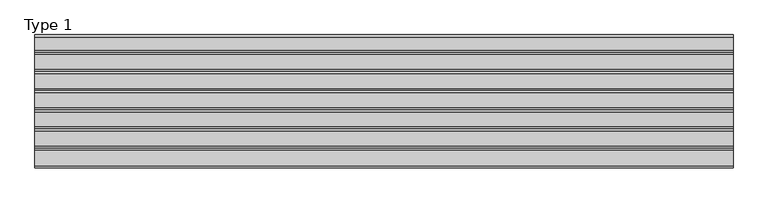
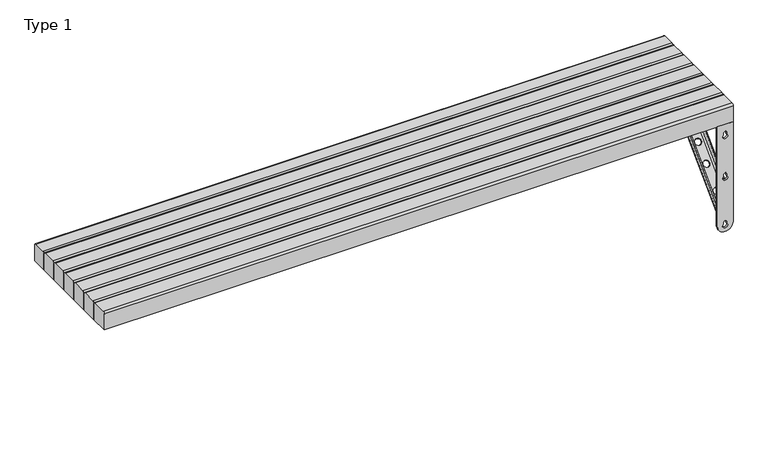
"""IFC4 building model written with IfcOpenShell, lengths in millimetres: furniture geometry, Roros Produkter - Nobel - Bench - Wall - 32650 : Type 1."""

from ifc_helpers import new_model, si_unit, point, frame, frame_2d, origin, place, context, project, spatial, polyline, circle_curve, ellipse_curve, trimmed, segment, composite_curve, outline, extrude, source, transform, mapped, element, save
from ifc_brep_helpers import plane_surface, cylinder_surface, revolved_surface, advanced_brep


def type_1_ca73483d(model_context):
    return source(origin(), model_context, "Body", "SolidModel", [
        advanced_brep(
        [(1117.9999922, 372.3279231, 368.5858677), (1081.9999922, 372.3279231, 368.5858677), (1077.1011148, 370.9137803, 370.0000106), (1122.8988696, 370.9137803, 370.0000106), (1117.9999922, 83.8283564, 84.3289417), (1081.9999922, 83.8283564, 84.3289417), (1077.9999922, 80.9999293, 87.1573688), (1074.9999922, 81.0, 87.1572981), (1081.9999922, 85.9496768, 82.2076214), (1117.9999922, 85.9496768, 82.2076214), (1124.9999922, 80.9999293, 87.1573688), (1121.9999922, 81.0, 87.1572981), (1121.9999922, 363.8425711, 370.0000106), (1117.9999922, 369.4994253, 370.0000106), (1121.9999922, 81.0, 112.6132837), (1121.9999922, 338.3867269, 370.0000106), (1124.9999922, 81.0, 112.6132837), (1124.9999922, 338.3867269, 370.0000106), (1124.9999922, 363.8425711, 370.0000106), (1090.0951875, 329.9749906, 326.2329352), (1110.0951875, 329.9749906, 326.2329352), (1090.0951875, 273.3273962, 269.5853408), (1110.0951875, 273.3273962, 269.5853408), (1090.0951875, 227.3654554, 223.6234), (1110.0951875, 227.3654554, 223.6234), (1090.0951875, 181.3935431, 177.6514877), (1110.0951875, 181.3935431, 177.6514877), (1090.0951875, 124.8524127, 121.1103573), (1110.0951875, 124.8524127, 121.1103573), (1074.9999922, 363.8425711, 370.0000106), (1074.9999922, 81.0, 112.6132837), (1074.9999922, 338.3867269, 370.0000106), (1077.9999922, 81.0, 112.6132837), (1077.9999922, 338.3867269, 370.0000106), (1077.9999922, 363.8425711, 370.0000106), (1081.9999922, 369.4994253, 370.0000106), (1110.0951875, 327.8536702, 328.3542555), (1090.0951875, 327.8536702, 328.3542555), (1110.0951875, 271.2060759, 271.7066611), (1090.0951875, 271.2060759, 271.7066611), (1110.0951875, 225.2441351, 225.7447204), (1090.0951875, 225.2441351, 225.7447204), (1110.0951875, 179.2722228, 179.772808), (1090.0951875, 179.2722228, 179.772808), (1110.0951875, 122.7310923, 123.2316776), (1090.0951875, 122.7310923, 123.2316776)],
        [
            (0, 1),
            (1, 2, circle_curve(frame((1081.9999922, 367.3781757, 373.5356152), z_axis=(0.0, 0.707106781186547, 0.7071067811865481), x_axis=(0.0, -0.7071067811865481, 0.707106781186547)), 7.0)),
            (2, 3),
            (3, 0, circle_curve(frame((1117.9999922, 367.3781757, 373.5356152), z_axis=(0.0, 0.707106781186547, 0.7071067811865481), x_axis=(0.0, -0.7071067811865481, 0.707106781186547)), 7.0)),
            (4, 5),
            (5, 6, circle_curve(frame((1081.9999922, 80.9999293, 87.1573688), z_axis=(0.0, 0.707106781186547, 0.7071067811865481), x_axis=(0.0, -0.7071067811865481, 0.707106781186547)), 4.0)),
            (6, 7),
            (7, 8, circle_curve(frame((1081.9999922, 80.9999293, 87.1573688), z_axis=(0.0, -0.707106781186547, -0.7071067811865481), x_axis=(0.0, -0.7071067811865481, 0.707106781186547)), 7.0)),
            (8, 9),
            (9, 10, circle_curve(frame((1117.9999922, 80.9999293, 87.1573688), z_axis=(0.0, -0.707106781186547, -0.7071067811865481), x_axis=(0.0, -0.7071067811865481, 0.707106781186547)), 7.0)),
            (10, 11),
            (11, 4, circle_curve(frame((1117.9999922, 80.9999293, 87.1573688), z_axis=(0.0, 0.707106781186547, 0.7071067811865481), x_axis=(0.0, -0.7071067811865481, 0.707106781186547)), 4.0)),
            (11, 12),
            (12, 13, ellipse_curve(frame((1117.9999922, 363.8425711, 370.0000106), z_axis=(0.0, 0.0, 1.0), x_axis=(0.0, -1.0, 0.0)), 5.6568542, 4.0)),
            (13, 4),
            (11, 14),
            (14, 15),
            (15, 12),
            (14, 16),
            (16, 17),
            (17, 15),
            (16, 10),
            (10, 18),
            (18, 17),
            (0, 9),
            (8, 1),
            (19, 20, circle_curve(frame((1100.0951875, 329.9749906, 326.2329352), z_axis=(0.0, -0.7071067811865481, 0.7071067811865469), x_axis=(-1.0, 0.0, 0.0)), 10.0)),
            (20, 19, circle_curve(frame((1100.0951875, 329.9749906, 326.2329352), z_axis=(0.0, -0.7071067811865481, 0.7071067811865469), x_axis=(-1.0, 0.0, 0.0)), 10.0)),
            (21, 22, circle_curve(frame((1100.0951875, 273.3273962, 269.5853408), z_axis=(0.0, -0.7071067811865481, 0.7071067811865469), x_axis=(-1.0, 0.0, 0.0)), 10.0)),
            (22, 21, circle_curve(frame((1100.0951875, 273.3273962, 269.5853408), z_axis=(0.0, -0.7071067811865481, 0.7071067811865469), x_axis=(-1.0, 0.0, 0.0)), 10.0)),
            (23, 24, circle_curve(frame((1100.0951875, 227.3654554, 223.6234), z_axis=(0.0, -0.7071067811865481, 0.7071067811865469), x_axis=(-1.0, 0.0, 0.0)), 10.0)),
            (24, 23, circle_curve(frame((1100.0951875, 227.3654554, 223.6234), z_axis=(0.0, -0.7071067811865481, 0.7071067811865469), x_axis=(-1.0, 0.0, 0.0)), 10.0)),
            (25, 26, circle_curve(frame((1100.0951875, 181.3935431, 177.6514877), z_axis=(0.0, -0.7071067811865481, 0.7071067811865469), x_axis=(-1.0, 0.0, 0.0)), 10.0)),
            (26, 25, circle_curve(frame((1100.0951875, 181.3935431, 177.6514877), z_axis=(0.0, -0.7071067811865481, 0.7071067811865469), x_axis=(-1.0, 0.0, 0.0)), 10.0)),
            (27, 28, circle_curve(frame((1100.0951875, 124.8524127, 121.1103573), z_axis=(0.0, -0.7071067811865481, 0.7071067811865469), x_axis=(-1.0, 0.0, 0.0)), 10.0)),
            (28, 27, circle_curve(frame((1100.0951875, 124.8524127, 121.1103573), z_axis=(0.0, -0.7071067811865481, 0.7071067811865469), x_axis=(-1.0, 0.0, 0.0)), 10.0)),
            (7, 29),
            (29, 2, ellipse_curve(frame((1081.9999922, 363.8425711, 370.0000106), z_axis=(0.0, 0.0, -1.0), x_axis=(0.0, 1.0, 0.0)), 9.8994949, 7.0)),
            (7, 30),
            (30, 31),
            (31, 29),
            (30, 32),
            (32, 33),
            (33, 31),
            (32, 6),
            (6, 34),
            (34, 33),
            (5, 35),
            (35, 34, ellipse_curve(frame((1081.9999922, 363.8425711, 370.0000106), z_axis=(0.0, 0.0, 1.0), x_axis=(0.0, -1.0, 0.0)), 5.6568542, 4.0)),
            (13, 35),
            (36, 37, circle_curve(frame((1100.0951875, 327.8536702, 328.3542555), z_axis=(0.0, 0.7071067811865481, -0.7071067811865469), x_axis=(-1.0, 0.0, 0.0)), 10.0)),
            (37, 36, circle_curve(frame((1100.0951875, 327.8536702, 328.3542555), z_axis=(0.0, 0.7071067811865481, -0.7071067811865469), x_axis=(-1.0, 0.0, 0.0)), 10.0)),
            (38, 39, circle_curve(frame((1100.0951875, 271.2060759, 271.7066611), z_axis=(0.0, 0.7071067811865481, -0.7071067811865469), x_axis=(-1.0, 0.0, 0.0)), 10.0)),
            (39, 38, circle_curve(frame((1100.0951875, 271.2060759, 271.7066611), z_axis=(0.0, 0.7071067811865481, -0.7071067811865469), x_axis=(-1.0, 0.0, 0.0)), 10.0)),
            (40, 41, circle_curve(frame((1100.0951875, 225.2441351, 225.7447204), z_axis=(0.0, 0.7071067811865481, -0.7071067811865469), x_axis=(-1.0, 0.0, 0.0)), 10.0)),
            (41, 40, circle_curve(frame((1100.0951875, 225.2441351, 225.7447204), z_axis=(0.0, 0.7071067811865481, -0.7071067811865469), x_axis=(-1.0, 0.0, 0.0)), 10.0)),
            (42, 43, circle_curve(frame((1100.0951875, 179.2722228, 179.772808), z_axis=(0.0, 0.7071067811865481, -0.7071067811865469), x_axis=(-1.0, 0.0, 0.0)), 10.0)),
            (43, 42, circle_curve(frame((1100.0951875, 179.2722228, 179.772808), z_axis=(0.0, 0.7071067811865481, -0.7071067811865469), x_axis=(-1.0, 0.0, 0.0)), 10.0)),
            (44, 45, circle_curve(frame((1100.0951875, 122.7310923, 123.2316776), z_axis=(0.0, 0.7071067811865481, -0.7071067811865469), x_axis=(-1.0, 0.0, 0.0)), 10.0)),
            (45, 44, circle_curve(frame((1100.0951875, 122.7310923, 123.2316776), z_axis=(0.0, 0.7071067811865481, -0.7071067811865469), x_axis=(-1.0, 0.0, 0.0)), 10.0)),
            (3, 18, ellipse_curve(frame((1117.9999922, 363.8425711, 370.0000106), z_axis=(0.0, 0.0, -1.0), x_axis=(0.0, 1.0, 0.0)), 9.8994949, 7.0)),
            (36, 20),
            (19, 37),
            (38, 22),
            (21, 39),
            (40, 24),
            (23, 41),
            (42, 26),
            (25, 43),
            (44, 28),
            (27, 45),
        ],
        [
            plane_surface(frame((1117.9999922, 364.5497485, 376.3640423), z_axis=(0.0, 0.7071067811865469, 0.7071067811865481), x_axis=(-1.0, 0.0, 0.0))),
            plane_surface(frame((1117.9999922, 78.1715022, 89.9857959), z_axis=(0.0, -0.7071067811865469, -0.7071067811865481), x_axis=(1.0, 0.0, 0.0))),
            revolved_surface(polyline([(1117.9999922, 78.1715021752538, 89.98579592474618), (1117.9999922, 363.84257107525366, 375.6568648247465)]), (1117.9999922, 80.9999293, 87.1573688), (0.0, -0.707106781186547, -0.7071067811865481)),
            plane_surface(frame((1121.9999922, 367.3781757, 373.5356152), z_axis=(-1.0, 0.0, 0.0), x_axis=(0.0, -0.707106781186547, -0.707106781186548))),
            plane_surface(frame((1121.9999922, 354.6502536, 386.2635373), z_axis=(0.0, -0.707106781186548, 0.707106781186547), x_axis=(0.0, -0.707106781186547, -0.707106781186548))),
            plane_surface(frame((1124.9999922, 354.6502536, 386.2635373), z_axis=(1.0, 0.0, 0.0), x_axis=(0.0, -0.707106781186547, -0.707106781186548))),
            plane_surface(frame((1117.9999922, 372.3279231, 368.5858677), z_axis=(0.0, 0.7071067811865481, -0.7071067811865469), x_axis=(0.0, -0.7071067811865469, -0.7071067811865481))),
            cylinder_surface(frame((1081.9999922, 80.9999293, 87.1573688), z_axis=(0.0, 0.707106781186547, 0.7071067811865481), x_axis=(0.0, -0.7071067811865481, 0.707106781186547)), 7.0),
            plane_surface(frame((1074.9999922, 367.3781757, 373.5356152), z_axis=(-1.0, 0.0, 0.0), x_axis=(0.0, -0.7071067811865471, -0.707106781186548))),
            plane_surface(frame((1074.9999922, 354.6502536, 386.2635373), z_axis=(0.0, -0.7071067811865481, 0.707106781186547), x_axis=(0.0, -0.707106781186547, -0.7071067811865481))),
            plane_surface(frame((1077.9999922, 354.6502536, 386.2635373), z_axis=(1.0000000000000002, 0.0, 0.0), x_axis=(0.0, -0.707106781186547, -0.7071067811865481))),
            revolved_surface(polyline([(1081.9999922, 78.1715021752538, 89.98579592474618), (1081.9999922, 363.84257107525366, 375.6568648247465)]), (1081.9999922, 80.9999293, 87.1573688), (0.0, -0.707106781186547, -0.7071067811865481)),
            plane_surface(frame((1081.9999922, 370.2066028, 370.7071881), z_axis=(0.0, -0.7071067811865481, 0.7071067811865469), x_axis=(0.0, -0.7071067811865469, -0.7071067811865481))),
            cylinder_surface(frame((1117.9999922, 80.9999293, 87.1573688), z_axis=(0.0, 0.707106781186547, 0.7071067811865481), x_axis=(0.0, -0.7071067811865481, 0.707106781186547)), 7.0),
            revolved_surface(polyline([(1090.0951875, 329.9749906, 326.2329352), (1090.0951875, 327.85367025, 328.35425555)]), (1100.0951875, 317.3539543, 338.8539715), (0.0, 0.7071067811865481, -0.7071067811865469)),
            revolved_surface(polyline([(1090.0951875, 273.3273962, 269.5853408), (1090.0951875, 271.2060759, 271.7066611)]), (1100.0951875, 273.3273962, 269.5853408), (0.0, 0.7071067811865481, -0.7071067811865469)),
            revolved_surface(polyline([(1090.0951875, 227.3654554, 223.6234), (1090.0951875, 225.24413504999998, 225.74472035)]), (1100.0951875, 227.3654554, 223.6234), (0.0, 0.7071067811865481, -0.7071067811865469)),
            revolved_surface(polyline([(1090.0951875, 181.3935431, 177.6514877), (1090.0951875, 179.27222279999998, 179.77280799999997)]), (1100.0951875, 181.3935431, 177.6514877), (0.0, 0.7071067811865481, -0.7071067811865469)),
            revolved_surface(polyline([(1090.0951875, 124.8524127, 121.1103573), (1090.0951875, 122.73109235, 123.23167765)]), (1100.0951875, 124.8524127, 121.1103573), (0.0, 0.7071067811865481, -0.7071067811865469)),
            plane_surface(frame((-946.6643977, 81.0, 130.0000106), z_axis=(0.0, -1.0, 0.0), x_axis=(1.0, 0.0, 0.0))),
            plane_surface(frame((-946.6643977, 376.8148919, 370.0000106), z_axis=(0.0, 0.0, 1.0), x_axis=(1.0, 0.0, 0.0))),
        ],
        [
            (0, [[1, 2, 3, 4]]),
            (1, [[5, 6, 7, 8, 9, 10, 11, 12]]),
            (2, [[-12, 13, 14, 15]]),
            (3, [[-13, 16, 17, 18]]),
            (4, [[-17, 19, 20, 21]]),
            (5, [[-20, 22, 23, 24]]),
            (6, [[-1, 25, -9, 26], [27, 28], [29, 30], [31, 32], [33, 34], [35, 36]]),
            (7, [[-8, 37, 38, -2, -26]]),
            (8, [[-37, 39, 40, 41]]),
            (9, [[-40, 42, 43, 44]]),
            (10, [[-43, 45, 46, 47]]),
            (11, [[-6, 48, 49, -46]]),
            (12, [[-5, -15, 50, -48], [51, 52], [53, 54], [55, 56], [57, 58], [59, 60]]),
            (13, [[-10, -25, -4, 61, -23]]),
            (14, [[62, -27, 63, -51]]),
            (14, [[-62, -52, -63, -28]]),
            (15, [[64, -29, 65, -53]]),
            (15, [[-64, -54, -65, -30]]),
            (16, [[66, -31, 67, -55]]),
            (16, [[-66, -56, -67, -32]]),
            (17, [[68, -33, 69, -57]]),
            (17, [[-68, -58, -69, -34]]),
            (18, [[70, -35, 71, -59]]),
            (18, [[-70, -60, -71, -36]]),
            (19, [[-7, -45, -42, -39]]),
            (19, [[-11, -22, -19, -16]]),
            (20, [[-3, -38, -41, -44, -47, -49, -50, -14, -18, -21, -24, -61]]),
        ],
    ),
        advanced_brep(
        [(1074.9999922, 86.0, 370.0000106), (1074.9999922, 81.0, 365.0000106), (1074.9999922, 81.0, 40.0000183), (1074.9999922, 76.0, 40.0000183), (1074.9999922, 76.0, 375.0000029), (1074.9999922, 430.9999923, 375.0000029), (1074.9999922, 430.9999923, 370.0000106), (1125.0000075, 81.0, 365.0000106), (1125.0000075, 86.0, 370.0000106), (1125.0000075, 430.9999923, 370.0000106), (1125.0000075, 430.9999923, 375.0000029), (1125.0000075, 76.0, 375.0000029), (1125.0000075, 76.0, 40.0000183), (1125.0000075, 81.0, 40.0000183), (1099.9999998, 81.0, 15.0000106), (1095.7499922, 81.0, 47.0000106), (1095.7499922, 81.0, 41.1796141), (1104.2499922, 81.0, 41.1796141), (1104.2499922, 81.0, 47.0000106), (1095.7499922, 81.0, 207.0000106), (1095.7499922, 81.0, 201.1796141), (1104.2499922, 81.0, 201.1796141), (1104.2499922, 81.0, 207.0000106), (1095.7499922, 81.0, 347.0000106), (1095.7499922, 81.0, 341.1796141), (1104.2499922, 81.0, 341.1796141), (1104.2499922, 81.0, 347.0000106), (1099.9999998, 76.0, 15.0000106), (1095.7499922, 76.0, 41.1796141), (1095.7499922, 76.0, 47.0000106), (1104.2499922, 76.0, 47.0000106), (1104.2499922, 76.0, 41.1796141), (1095.7499922, 76.0, 201.1796141), (1095.7499922, 76.0, 207.0000106), (1104.2499922, 76.0, 207.0000106), (1104.2499922, 76.0, 201.1796141), (1095.7499922, 76.0, 341.1796141), (1095.7499922, 76.0, 347.0000106), (1104.2499922, 76.0, 347.0000106), (1104.2499922, 76.0, 341.1796141), (1099.9999998, 456.0, 375.0000029), (1099.9999998, 456.0, 370.0000106)],
        [
            (0, 1, circle_curve(frame((1074.9999922, 86.0, 365.0000106), z_axis=(1.0, 0.0, 0.0), x_axis=(0.0, 1.0, 0.0)), 5.0)),
            (1, 2),
            (2, 3),
            (3, 4),
            (4, 5),
            (5, 6),
            (6, 0),
            (7, 8, circle_curve(frame((1125.0000075, 86.0, 365.0000106), z_axis=(-1.0, 0.0, 0.0), x_axis=(0.0, 1.0, 0.0)), 5.0)),
            (8, 9),
            (9, 10),
            (10, 11),
            (11, 12),
            (12, 13),
            (13, 7),
            (1, 7),
            (13, 14, circle_curve(frame((1099.9999998, 81.0, 40.0000183), z_axis=(0.0, 1.0, 0.0), x_axis=(-1.0, 0.0, 0.0)), 25.0000077)),
            (14, 2, circle_curve(frame((1099.9999998, 81.0, 40.0000183), z_axis=(0.0, 1.0, 0.0), x_axis=(-1.0, 0.0, 0.0)), 25.0000077)),
            (15, 16),
            (16, 17, circle_curve(frame((1099.9999922, 81.0, 35.0000106), z_axis=(0.0, -1.0, 0.0), x_axis=(0.0, 0.0, -1.0)), 7.5)),
            (17, 18),
            (18, 15, circle_curve(frame((1099.9999922, 81.0, 47.0000106), z_axis=(0.0, -1.0, 0.0), x_axis=(1.0, 0.0, 0.0)), 4.25)),
            (19, 20),
            (20, 21, circle_curve(frame((1099.9999922, 81.0, 195.0000106), z_axis=(0.0, -1.0, 0.0), x_axis=(0.0, 0.0, -1.0)), 7.5)),
            (21, 22),
            (22, 19, circle_curve(frame((1099.9999922, 81.0, 207.0000106), z_axis=(0.0, -1.0, 0.0), x_axis=(1.0, 0.0, 0.0)), 4.25)),
            (23, 24),
            (24, 25, circle_curve(frame((1099.9999922, 81.0, 335.0000106), z_axis=(0.0, -1.0, 0.0), x_axis=(0.0, 0.0, -1.0)), 7.5)),
            (25, 26),
            (26, 23, circle_curve(frame((1099.9999922, 81.0, 347.0000106), z_axis=(0.0, -1.0, 0.0), x_axis=(1.0, 0.0, 0.0)), 4.25)),
            (11, 4),
            (3, 27, circle_curve(frame((1099.9999998, 76.0, 40.0000183), z_axis=(0.0, -1.0, 0.0), x_axis=(-1.0, 0.0, 0.0)), 25.0000077)),
            (27, 12, circle_curve(frame((1099.9999998, 76.0, 40.0000183), z_axis=(0.0, -1.0, 0.0), x_axis=(-1.0, 0.0, 0.0)), 25.0000077)),
            (28, 29),
            (29, 30, circle_curve(frame((1099.9999922, 76.0, 47.0000106), z_axis=(0.0, 1.0, 0.0), x_axis=(1.0, 0.0, 0.0)), 4.25)),
            (30, 31),
            (31, 28, circle_curve(frame((1099.9999922, 76.0, 35.0000106), z_axis=(0.0, 1.0, 0.0), x_axis=(0.0, 0.0, -1.0)), 7.5)),
            (32, 33),
            (33, 34, circle_curve(frame((1099.9999922, 76.0, 207.0000106), z_axis=(0.0, 1.0, 0.0), x_axis=(1.0, 0.0, 0.0)), 4.25)),
            (34, 35),
            (35, 32, circle_curve(frame((1099.9999922, 76.0, 195.0000106), z_axis=(0.0, 1.0, 0.0), x_axis=(0.0, 0.0, -1.0)), 7.5)),
            (36, 37),
            (37, 38, circle_curve(frame((1099.9999922, 76.0, 347.0000106), z_axis=(0.0, 1.0, 0.0), x_axis=(1.0, 0.0, 0.0)), 4.25)),
            (38, 39),
            (39, 36, circle_curve(frame((1099.9999922, 76.0, 335.0000106), z_axis=(0.0, 1.0, 0.0), x_axis=(0.0, 0.0, -1.0)), 7.5)),
            (10, 40, circle_curve(frame((1099.9999998, 430.9999923, 375.0000029), z_axis=(0.0, 0.0, 1.0), x_axis=(-1.0, 0.0, 0.0)), 25.0000077)),
            (40, 5, circle_curve(frame((1099.9999998, 430.9999923, 375.0000029), z_axis=(0.0, 0.0, 1.0), x_axis=(-1.0, 0.0, 0.0)), 25.0000077)),
            (8, 0),
            (6, 41, circle_curve(frame((1099.9999998, 430.9999923, 370.0000106), z_axis=(0.0, 0.0, -1.0), x_axis=(-1.0, 0.0, 0.0)), 25.0000077)),
            (41, 9, circle_curve(frame((1099.9999998, 430.9999923, 370.0000106), z_axis=(0.0, 0.0, -1.0), x_axis=(-1.0, 0.0, 0.0)), 25.0000077)),
            (28, 16),
            (15, 29),
            (18, 30),
            (17, 31),
            (32, 20),
            (19, 33),
            (22, 34),
            (21, 35),
            (36, 24),
            (23, 37),
            (26, 38),
            (25, 39),
        ],
        [
            plane_surface(frame((1074.9999922, 81.0, 15.0000106), z_axis=(-1.0, 0.0, 0.0), x_axis=(0.0, 0.0, -1.0))),
            plane_surface(frame((1125.0000075, 81.0, 15.0000106), z_axis=(1.0, 0.0, 0.0), x_axis=(0.0, 0.0, 1.0))),
            plane_surface(frame((1074.9999922, 81.0, 365.0000106), z_axis=(0.0, 1.0, 0.0), x_axis=(1.0, 0.0, 0.0))),
            plane_surface(frame((1074.9999922, 76.0, 15.0000106), z_axis=(0.0, -1.0, 0.0), x_axis=(1.0, 0.0, 0.0))),
            plane_surface(frame((1074.9999922, 76.0, 375.0000029), z_axis=(0.0, 0.0, 1.0), x_axis=(1.0, 0.0, 0.0))),
            plane_surface(frame((1074.9999922, 456.0, 370.0000106), z_axis=(0.0, 0.0, -1.0), x_axis=(1.0, 0.0, 0.0))),
            revolved_surface(polyline([(1125.0000075, 91.0, 365.0000106), (1074.9999922, 91.0, 365.0000106)]), (1125.0000075, 86.0, 365.0000106), (1.0, 0.0, 0.0)),
            cylinder_surface(frame((1099.9999998, 48.2805207, 40.0000183), z_axis=(0.0, -1.0, 0.0), x_axis=(-1.0, 0.0, 0.0)), 25.0000077),
            plane_surface(frame((1095.7499922, 90.1975871, 41.1796141), z_axis=(1.0, 0.0, 0.0), x_axis=(0.0, -1.0, 0.0))),
            revolved_surface(polyline([(1104.2499922, 81.0, 47.0000106), (1104.2499922, 76.0, 47.0000106)]), (1099.9999922, 270.9999943, 47.0000106), (0.0, 1.0, 0.0)),
            plane_surface(frame((1104.2499922, 90.1975871, 47.0000106), z_axis=(-1.0, 0.0, 0.0), x_axis=(0.0, -1.0, 0.0))),
            revolved_surface(polyline([(1099.9999922, 81.0, 27.500010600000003), (1099.9999922, 76.0, 27.500010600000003)]), (1099.9999922, 270.9999943, 35.0000106), (0.0, 1.0, 0.0)),
            plane_surface(frame((1095.7499922, 90.1975871, 201.1796141), z_axis=(1.0, 0.0, 0.0), x_axis=(0.0, -1.0, 0.0))),
            revolved_surface(polyline([(1104.2499922, 81.0, 207.0000106), (1104.2499922, 76.0, 207.0000106)]), (1099.9999922, 270.9999943, 207.0000106), (0.0, 1.0, 0.0)),
            plane_surface(frame((1104.2499922, 90.1975871, 207.0000106), z_axis=(-1.0, 0.0, 0.0), x_axis=(0.0, -1.0, 0.0))),
            revolved_surface(polyline([(1099.9999922, 81.0, 187.5000106), (1099.9999922, 76.0, 187.5000106)]), (1099.9999922, 270.9999943, 195.0000106), (0.0, 1.0, 0.0)),
            plane_surface(frame((1095.7499922, 90.1975871, 341.1796141), z_axis=(1.0, 0.0, 0.0), x_axis=(0.0, -1.0, 0.0))),
            revolved_surface(polyline([(1104.2499922, 81.0, 347.0000106), (1104.2499922, 76.0, 347.0000106)]), (1099.9999922, 270.9999943, 347.0000106), (0.0, 1.0, 0.0)),
            plane_surface(frame((1104.2499922, 90.1975871, 347.0000106), z_axis=(-1.0, 0.0, 0.0), x_axis=(0.0, -1.0, 0.0))),
            revolved_surface(polyline([(1099.9999922, 81.0, 327.5000106), (1099.9999922, 76.0, 327.5000106)]), (1099.9999922, 270.9999943, 335.0000106), (0.0, 1.0, 0.0)),
            cylinder_surface(frame((1099.9999998, 430.9999923, 341.1796141), z_axis=(0.0, 0.0, -1.0), x_axis=(-1.0, 0.0, 0.0)), 25.0000077),
        ],
        [
            (0, [[1, 2, 3, 4, 5, 6, 7]]),
            (1, [[8, 9, 10, 11, 12, 13, 14]]),
            (2, [[15, -14, 16, 17, -2], [18, 19, 20, 21], [22, 23, 24, 25], [26, 27, 28, 29]]),
            (3, [[30, -4, 31, 32, -12], [33, 34, 35, 36], [37, 38, 39, 40], [41, 42, 43, 44]]),
            (4, [[-30, -11, 45, 46, -5]]),
            (5, [[47, -7, 48, 49, -9]]),
            (6, [[-1, -47, -8, -15]]),
            (7, [[-3, -17, -16, -13, -32, -31]]),
            (8, [[50, -18, 51, -33]]),
            (9, [[-51, -21, 52, -34]]),
            (10, [[-52, -20, 53, -35]]),
            (11, [[-50, -36, -53, -19]]),
            (12, [[54, -22, 55, -37]]),
            (13, [[-55, -25, 56, -38]]),
            (14, [[-56, -24, 57, -39]]),
            (15, [[-54, -40, -57, -23]]),
            (16, [[58, -26, 59, -41]]),
            (17, [[-59, -29, 60, -42]]),
            (18, [[-60, -28, 61, -43]]),
            (19, [[-58, -44, -61, -27]]),
            (20, [[-6, -46, -45, -10, -49, -48]]),
        ],
    ),
        extrude(outline(composite_curve([segment(polyline([(188.500003, 429.0000106), (188.500003, 375.0000029), (133.4999989, 375.0000029), (133.4999989, 428.9849806)]), True, "CONTINUOUS"), segment(trimmed(circle_curve(frame_2d((139.515029, 428.9849806)), 6.01503), [point((133.4999989, 428.9849806))], [point((139.515029, 435.0000106))], False, "CARTESIAN"), True, "CONTINUOUS"), segment(polyline([(139.515029, 435.0000106), (182.500003, 435.0000106)]), True, "CONTINUOUS"), segment(trimmed(circle_curve(frame_2d((182.500003, 429.0000106)), 6.0), [point((182.500003, 435.0000106))], [point((188.500003, 429.0000106))], False, "CARTESIAN"), True, "CONTINUOUS")], self_intersect=False)), frame((-875.0000078, 0.0, 0.0), z_axis=(1.0, 0.0, 0.0), x_axis=(0.0, 1.0, 0.0)), (0.0, 0.0, 1.0), 2000.0000153),
        extrude(outline(composite_curve([segment(polyline([(298.4999907, 429.0000106), (298.4999907, 375.0000029), (243.499998, 375.0000029), (243.499998, 428.9849806)]), True, "CONTINUOUS"), segment(trimmed(circle_curve(frame_2d((249.515028, 428.9849806)), 6.01503), [point((243.499998, 428.9849806))], [point((249.515028, 435.0000106))], False, "CARTESIAN"), True, "CONTINUOUS"), segment(polyline([(249.515028, 435.0000106), (292.4999907, 435.0000106)]), True, "CONTINUOUS"), segment(trimmed(circle_curve(frame_2d((292.4999907, 429.0000106)), 6.0), [point((292.4999907, 435.0000106))], [point((298.4999907, 429.0000106))], False, "CARTESIAN"), True, "CONTINUOUS")], self_intersect=False)), frame((-875.0000078, 0.0, 0.0), z_axis=(1.0, 0.0, 0.0), x_axis=(0.0, 1.0, 0.0)), (0.0, 0.0, 1.0), 2000.0000153),
        extrude(outline(composite_curve([segment(polyline([(408.4999897, 429.0000106), (408.4999897, 375.0000029), (353.4999856, 375.0000029), (353.4999856, 428.9849806)]), True, "CONTINUOUS"), segment(trimmed(circle_curve(frame_2d((359.5150157, 428.9849806)), 6.01503), [point((353.4999856, 428.9849806))], [point((359.5150157, 435.0000106))], False, "CARTESIAN"), True, "CONTINUOUS"), segment(polyline([(359.5150157, 435.0000106), (402.4999897, 435.0000106)]), True, "CONTINUOUS"), segment(trimmed(circle_curve(frame_2d((402.4999897, 429.0000106)), 6.0), [point((402.4999897, 435.0000106))], [point((408.4999897, 429.0000106))], False, "CARTESIAN"), True, "CONTINUOUS")], self_intersect=False)), frame((-875.0000078, 0.0, 0.0), z_axis=(1.0, 0.0, 0.0), x_axis=(0.0, 1.0, 0.0)), (0.0, 0.0, 1.0), 2000.0000153),
        extrude(outline(composite_curve([segment(polyline([(133.4999989, 429.0000106), (133.4999989, 375.0000029), (76.0, 375.0000029), (76.0, 428.9849806)]), True, "CONTINUOUS"), segment(trimmed(circle_curve(frame_2d((82.01503, 428.9849806)), 6.01503), [point((76.0, 428.9849806))], [point((82.01503, 435.0000106))], False, "CARTESIAN"), True, "CONTINUOUS"), segment(polyline([(82.01503, 435.0000106), (127.4999989, 435.0000106)]), True, "CONTINUOUS"), segment(trimmed(circle_curve(frame_2d((127.4999989, 429.0000106)), 6.0), [point((127.4999989, 435.0000106))], [point((133.4999989, 429.0000106))], False, "CARTESIAN"), True, "CONTINUOUS")], self_intersect=False)), frame((-875.0000078, 0.0, 0.0), z_axis=(1.0, 0.0, 0.0), x_axis=(0.0, 1.0, 0.0)), (0.0, 0.0, 1.0), 2000.0000153),
        extrude(outline(composite_curve([segment(polyline([(194.500003, 435.0000106), (237.499998, 435.0000106)]), True, "CONTINUOUS"), segment(trimmed(circle_curve(frame_2d((237.499998, 429.0000106)), 6.0), [point((237.499998, 435.0000106))], [point((243.499998, 429.0000106))], False, "CARTESIAN"), True, "CONTINUOUS"), segment(polyline([(243.499998, 429.0000106), (243.499998, 375.0000029), (188.500003, 375.0000029), (188.500003, 429.0000106)]), True, "CONTINUOUS"), segment(trimmed(circle_curve(frame_2d((194.500003, 429.0000106)), 6.0), [point((188.500003, 429.0000106))], [point((194.500003, 435.0000106))], False, "CARTESIAN"), True, "CONTINUOUS")], self_intersect=False)), frame((-875.0000078, 0.0, 0.0), z_axis=(1.0, 0.0, 0.0), x_axis=(0.0, 1.0, 0.0)), (0.0, 0.0, 1.0), 2000.0000153),
        extrude(outline(composite_curve([segment(trimmed(circle_curve(frame_2d((304.4999907, 429.0000106)), 6.0), [point((298.4999907, 429.0000106))], [point((304.4999907, 435.0000106))], False, "CARTESIAN"), True, "CONTINUOUS"), segment(polyline([(304.4999907, 435.0000106), (347.4999856, 435.0000106)]), True, "CONTINUOUS"), segment(trimmed(circle_curve(frame_2d((347.4999856, 429.0000106)), 6.0), [point((347.4999856, 435.0000106))], [point((353.4999856, 429.0000106))], False, "CARTESIAN"), True, "CONTINUOUS"), segment(polyline([(353.4999856, 429.0000106), (353.4999856, 375.0000029), (298.4999907, 375.0000029), (298.4999907, 429.0000106)]), True, "CONTINUOUS")], self_intersect=False)), frame((-875.0000078, 0.0, 0.0), z_axis=(1.0, 0.0, 0.0), x_axis=(0.0, 1.0, 0.0)), (0.0, 0.0, 1.0), 2000.0000153),
        extrude(outline(composite_curve([segment(trimmed(circle_curve(frame_2d((414.4999897, 429.0000106)), 6.0), [point((408.4999897, 429.0000106))], [point((414.4999897, 435.0000106))], False, "CARTESIAN"), True, "CONTINUOUS"), segment(polyline([(414.4999897, 435.0000106), (452.4999901, 435.0000106)]), True, "CONTINUOUS"), segment(trimmed(circle_curve(frame_2d((452.4999901, 429.0000106)), 6.0), [point((452.4999901, 435.0000106))], [point((458.4999901, 429.0000106))], False, "CARTESIAN"), True, "CONTINUOUS"), segment(polyline([(458.4999901, 429.0000106), (458.4999901, 375.0000029), (408.4999897, 375.0000029), (408.4999897, 429.0000106)]), True, "CONTINUOUS")], self_intersect=False)), frame((-875.0000078, 0.0, 0.0), z_axis=(1.0, 0.0, 0.0), x_axis=(0.0, 1.0, 0.0)), (0.0, 0.0, 1.0), 2000.0000153),
    ])


if __name__ == "__main__":
    model = new_model("IFC4")
    model_context = context("Model", 3, world=origin())
    ifc_project = project(units=[si_unit("LENGTHUNIT", "METRE", prefix="MILLI")], contexts=[model_context])
    site = spatial("IfcSite", under=ifc_project)
    building = spatial("IfcBuilding", under=site)
    placement = place(None, origin())
    type_1_shape = type_1_ca73483d(model_context)
    element("IfcFurniture", 1, ObjectType="Roros Produkter - Nobel - Bench - Wall - 32650 : Type 1", at=placement, inside=building, context=model_context, shape_type="MappedRepresentation", body=[
        mapped(type_1_shape, transform((0.0, 0.0, 0.0), x_axis=(1.0, 0.0, 0.0), y_axis=(0.0, 1.0, 0.0), z_axis=(0.0, 0.0, 1.0))),
    ])
    save(model, "model.ifc")
